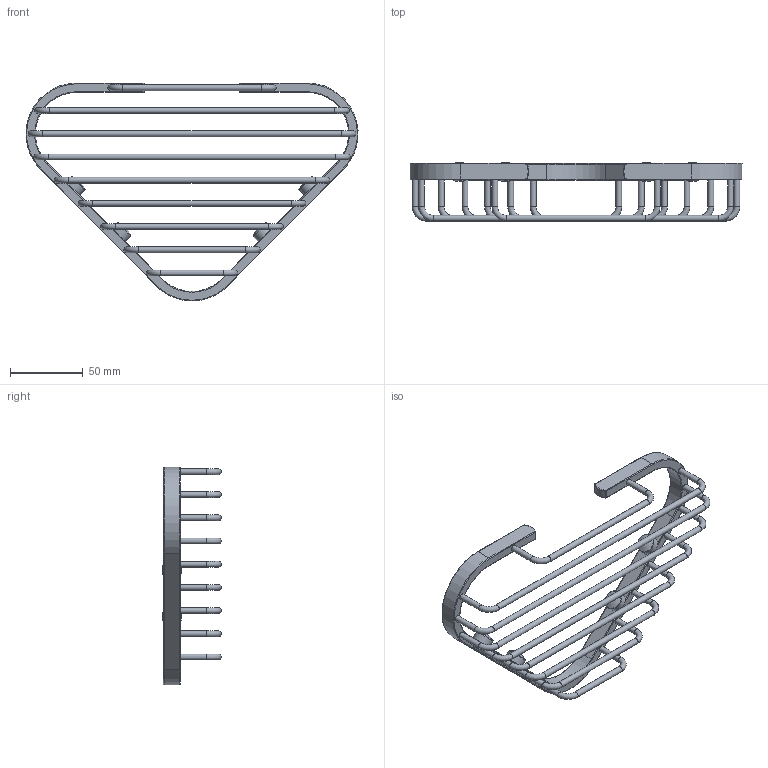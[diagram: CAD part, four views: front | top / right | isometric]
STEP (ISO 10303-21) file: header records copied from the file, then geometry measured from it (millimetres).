
FILE_DESCRIPTION(/* description */ (''),/* implementation_level */ '2;1');
FILE_NAME(/* name */ 'c:\worker\convert-fusion-r09\tmp\job-1\9\output\files\0ab6bc18-fc91-4ef0-b626-e7a70eb6304e\21e1ec31-533d-4c51-8734-add6af14dc73.stp',/* time_stamp */ '2020-01-09T10:49:41+00:00',/* author */ (''),/* organization */ (''),/* preprocessor_version */ 'ST-DEVELOPER v18',/* originating_system */ 'Autodesk Translation Framework v8.12.0.6',/* authorisation */ '');
FILE_SCHEMA (('AUTOMOTIVE_DESIGN { 1 0 10303 214 3 1 1 }'));
Length unit declared in the file: millimetre
Products named in the file (1): !UN3601
Bounding box: 228.97 x 40.49 x 150.28 mm (x, y, z)
Volume: 64407.5 mm3; surface area: 41575.6 mm2
Topology: 1 solids, 1 shells, 131 faces, 354 edges, 221 vertices
Faces by surface type: cylinder 59, torus 38, plane 22, bspline 8, sphere 4
Full cylindrical faces by diameter (mm): 4 x27, 13 x4
Entity records: 4300 total; most frequent: DIRECTION 849, CARTESIAN_POINT 767, ORIENTED_EDGE 700, AXIS2_PLACEMENT_3D 375, EDGE_CURVE 350, CIRCLE 251, VERTEX_POINT 221, EDGE_LOOP 149
